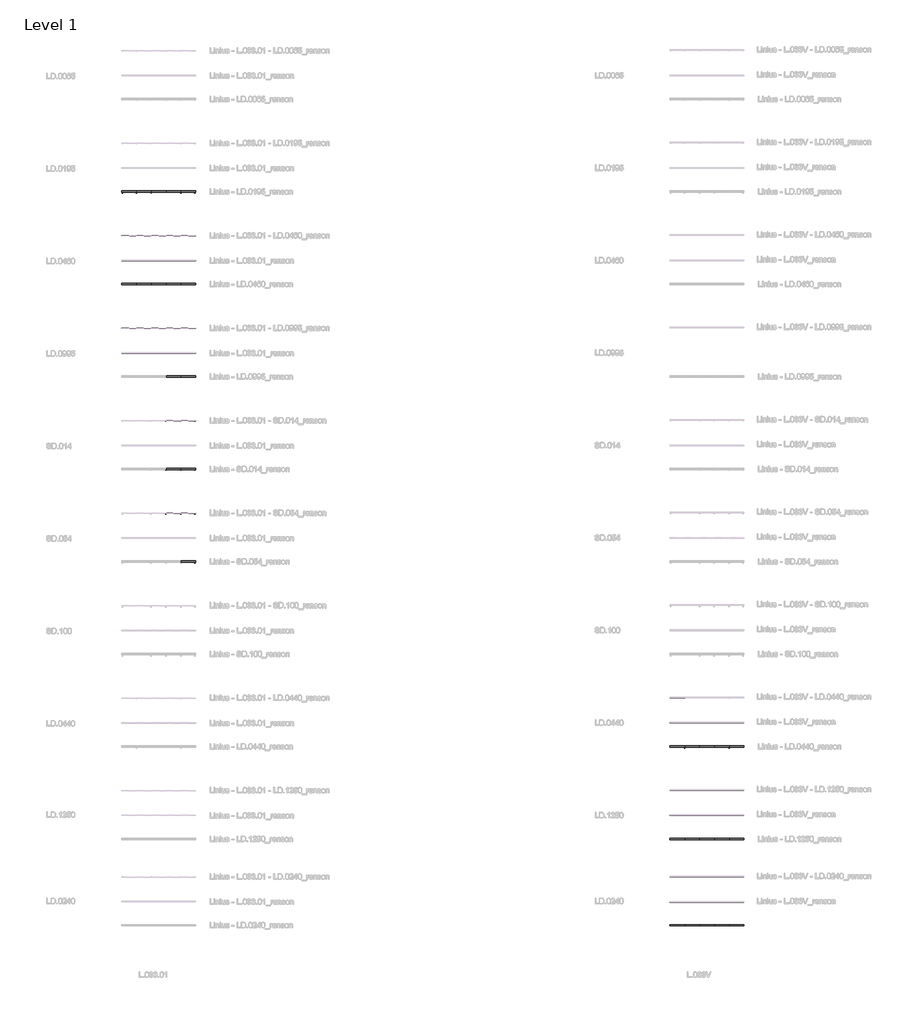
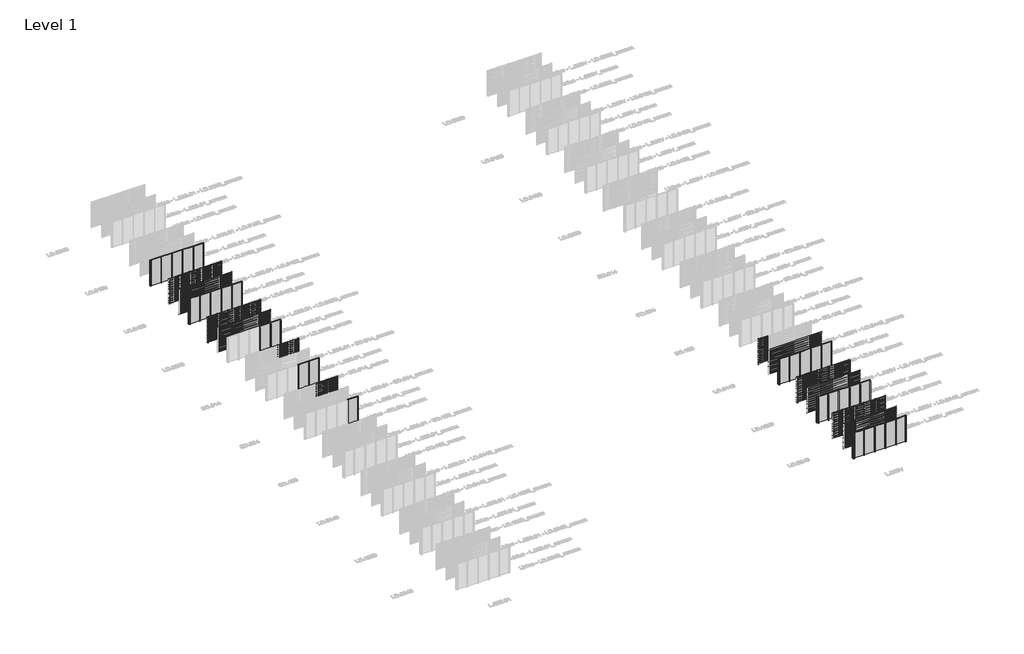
# One storey, part 2 of 507: 68 members, 60 plates.
"""IFC4 building model written with IfcOpenShell, lengths in millimetres."""

from ifc_helpers import new_model, si_unit, origin, origin_with_axes, place, context, project, spatial, polyline, outline, extrude, transform, mapped, element, save
from components import rectangular_mullion_e1f482b2, rectangular_mullion_21e3ddae, rectangular_mullion_fb497acc, rectangular_mullion_3facce28, rectangular_mullion_6cf2c509, rectangular_mullion_2c867e25, rectangular_mullion_7803f5c4, rectangular_mullion_82152e2f, rectangular_mullion_146f339b, rectangular_mullion_aa1047c5, rectangular_mullion_c2c7736a, rectangular_mullion_35b0a916, rectangular_mullion_bd250e2e, rectangular_mullion_7b49c8f1, rectangular_mullion_0fd695e7, rectangular_mullion_dfb17e98, rectangular_mullion_5b30f3fd, rectangular_mullion_5e0e8e0a, rectangular_mullion_d2d38772, rectangular_mullion_efb80f74, rectangular_mullion_aaa1fb1b, rectangular_mullion_ea9d012c, empty_system_panel_empty_aabbdda4

model = new_model("IFC4")

# Units and contexts
model_context = context("Model", 3, world=origin())
ifc_project = project(units=[si_unit("LENGTHUNIT", "METRE", prefix="MILLI")], contexts=[model_context])

# Site, building, storey
site = spatial("IfcSite", under=ifc_project)
building = spatial("IfcBuilding", under=site)
storey = spatial("IfcBuildingStorey", under=building, Name="Level 1", Elevation=0.0)

# Members
placement = place(None, origin())
rectangular_mullion_shape = rectangular_mullion_e1f482b2(model_context)
element("IfcMember", 1, ObjectType="Rectangular Mullion : LD.0195_renson", at=placement, inside=storey, context=model_context, shape_type="MappedRepresentation", body=[
    mapped(rectangular_mullion_shape, transform((49766.6208095, 62481.0540136, 0.0), x_axis=(-1.0, 0.0, 0.0), y_axis=(0.0, 1.0, 0.0), z_axis=(0.0, 0.0, -1.0))),
])
element("IfcMember", 2, ObjectType="Rectangular Mullion : LD.0195_renson", at=placement, inside=storey, context=model_context, shape_type="MappedRepresentation", body=[
    mapped(rectangular_mullion_shape, transform((48566.6208096, 62481.0540136, 0.0), x_axis=(-1.0, 0.0, 0.0), y_axis=(0.0, 1.0, 0.0), z_axis=(0.0, 0.0, -1.0))),
])
element("IfcMember", 3, ObjectType="Rectangular Mullion : LD.0195_renson", at=placement, inside=storey, context=model_context, shape_type="MappedRepresentation", body=[
    mapped(rectangular_mullion_shape, transform((47366.6208097, 62481.0540136, 0.0), x_axis=(-1.0, 0.0, 0.0), y_axis=(0.0, 1.0, 0.0), z_axis=(0.0, 0.0, -1.0))),
])
element("IfcMember", 4, ObjectType="Rectangular Mullion : LD.0195_renson", at=placement, inside=storey, context=model_context, shape_type="MappedRepresentation", body=[
    mapped(rectangular_mullion_shape, transform((46166.6208099, 62481.0540136, 0.0), x_axis=(-1.0, 0.0, 0.0), y_axis=(0.0, 1.0, 0.0), z_axis=(0.0, 0.0, -1.0))),
])
rectangular_mullion_2_shape = rectangular_mullion_21e3ddae(model_context)
element("IfcMember", 5, ObjectType="Rectangular Mullion : LD.0460_renson", at=placement, inside=storey, context=model_context, shape_type="MappedRepresentation", body=[
    mapped(rectangular_mullion_2_shape, transform((49766.6208095, 58981.0540136, 0.0), x_axis=(-1.0, 0.0, 0.0), y_axis=(0.0, 1.0, 0.0), z_axis=(0.0, 0.0, -1.0))),
])
element("IfcMember", 6, ObjectType="Rectangular Mullion : LD.0460_renson", at=placement, inside=storey, context=model_context, shape_type="MappedRepresentation", body=[
    mapped(rectangular_mullion_2_shape, transform((48566.6208096, 58981.0540136, 0.0), x_axis=(-1.0, 0.0, 0.0), y_axis=(0.0, 1.0, 0.0), z_axis=(0.0, 0.0, -1.0))),
])
element("IfcMember", 7, ObjectType="Rectangular Mullion : LD.0460_renson", at=placement, inside=storey, context=model_context, shape_type="MappedRepresentation", body=[
    mapped(rectangular_mullion_2_shape, transform((47366.6208097, 58981.0540136, 0.0), x_axis=(-1.0, 0.0, 0.0), y_axis=(0.0, 1.0, 0.0), z_axis=(0.0, 0.0, -1.0))),
])
element("IfcMember", 8, ObjectType="Rectangular Mullion : LD.0460_renson", at=placement, inside=storey, context=model_context, shape_type="MappedRepresentation", body=[
    mapped(rectangular_mullion_2_shape, transform((46166.6208099, 58981.0540136, 0.0), x_axis=(-1.0, 0.0, 0.0), y_axis=(0.0, 1.0, 0.0), z_axis=(0.0, 0.0, -1.0))),
])
element("IfcMember", 9, ObjectType="Rectangular Mullion : LD.0460_renson", at=placement, inside=storey, context=model_context, shape_type="MappedRepresentation", body=[
    mapped(rectangular_mullion_2_shape, transform((49766.6208095, 54981.0540136, 0.0), x_axis=(-1.0, 0.0, 0.0), y_axis=(0.0, 1.0, 0.0), z_axis=(0.0, 0.0, -1.0))),
])
element("IfcMember", 10, ObjectType="Rectangular Mullion : LD.0460_renson", at=placement, inside=storey, context=model_context, shape_type="MappedRepresentation", body=[
    mapped(rectangular_mullion_2_shape, transform((48566.6208096, 54981.0540136, 0.0), x_axis=(-1.0, 0.0, 0.0), y_axis=(0.0, 1.0, 0.0), z_axis=(0.0, 0.0, -1.0))),
])
element("IfcMember", 11, ObjectType="Rectangular Mullion : LD.0460_renson", at=placement, inside=storey, context=model_context, shape_type="MappedRepresentation", body=[
    mapped(rectangular_mullion_2_shape, transform((47366.6208097, 54981.0540136, 0.0), x_axis=(-1.0, 0.0, 0.0), y_axis=(0.0, 1.0, 0.0), z_axis=(0.0, 0.0, -1.0))),
])
element("IfcMember", 12, ObjectType="Rectangular Mullion : LD.0460_renson", at=placement, inside=storey, context=model_context, shape_type="MappedRepresentation", body=[
    mapped(rectangular_mullion_2_shape, transform((46166.6208099, 54981.0540136, 0.0), x_axis=(-1.0, 0.0, 0.0), y_axis=(0.0, 1.0, 0.0), z_axis=(0.0, 0.0, -1.0))),
])
rectangular_mullion_3_shape = rectangular_mullion_fb497acc(model_context)
element("IfcMember", 13, ObjectType="Rectangular Mullion : LD.0995_renson", at=placement, inside=storey, context=model_context, shape_type="MappedRepresentation", body=[
    mapped(rectangular_mullion_3_shape, transform((49766.6208095, 51481.0540136, 0.0), x_axis=(-1.0, 0.0, 0.0), y_axis=(0.0, 1.0, 0.0), z_axis=(0.0, 0.0, -1.0))),
])
element("IfcMember", 14, ObjectType="Rectangular Mullion : LD.0995_renson", at=placement, inside=storey, context=model_context, shape_type="MappedRepresentation", body=[
    mapped(rectangular_mullion_3_shape, transform((48566.6208096, 51481.0540136, 0.0), x_axis=(-1.0, 0.0, 0.0), y_axis=(0.0, 1.0, 0.0), z_axis=(0.0, 0.0, -1.0))),
])
element("IfcMember", 15, ObjectType="Rectangular Mullion : LD.0995_renson", at=placement, inside=storey, context=model_context, shape_type="MappedRepresentation", body=[
    mapped(rectangular_mullion_3_shape, transform((47366.6208097, 51481.0540136, 0.0), x_axis=(-1.0, 0.0, 0.0), y_axis=(0.0, 1.0, 0.0), z_axis=(0.0, 0.0, -1.0))),
])
element("IfcMember", 16, ObjectType="Rectangular Mullion : LD.0995_renson", at=placement, inside=storey, context=model_context, shape_type="MappedRepresentation", body=[
    mapped(rectangular_mullion_3_shape, transform((46166.6208099, 51481.0540136, 0.0), x_axis=(-1.0, 0.0, 0.0), y_axis=(0.0, 1.0, 0.0), z_axis=(0.0, 0.0, -1.0))),
])
element("IfcMember", 17, ObjectType="Rectangular Mullion : LD.0995_renson", at=placement, inside=storey, context=model_context, shape_type="MappedRepresentation", body=[
    mapped(rectangular_mullion_3_shape, transform((49766.6208095, 47481.0540136, 0.0), x_axis=(-1.0, 0.0, 0.0), y_axis=(0.0, 1.0, 0.0), z_axis=(0.0, 0.0, -1.0))),
])
element("IfcMember", 18, ObjectType="Rectangular Mullion : LD.0995_renson", at=placement, inside=storey, context=model_context, shape_type="MappedRepresentation", body=[
    mapped(rectangular_mullion_3_shape, transform((48566.6208096, 47481.0540136, 0.0), x_axis=(-1.0, 0.0, 0.0), y_axis=(0.0, 1.0, 0.0), z_axis=(0.0, 0.0, -1.0))),
])
rectangular_mullion_4_shape = rectangular_mullion_3facce28(model_context)
element("IfcMember", 19, ObjectType="Rectangular Mullion : SD.014_renson", at=placement, inside=storey, context=model_context, shape_type="MappedRepresentation", body=[
    mapped(rectangular_mullion_4_shape, transform((49766.6208095, 43981.0540136, 0.0), x_axis=(-1.0, 0.0, 0.0), y_axis=(0.0, 1.0, 0.0), z_axis=(0.0, 0.0, -1.0))),
])
element("IfcMember", 20, ObjectType="Rectangular Mullion : SD.014_renson", at=placement, inside=storey, context=model_context, shape_type="MappedRepresentation", body=[
    mapped(rectangular_mullion_4_shape, transform((48566.6208096, 43981.0540136, 0.0), x_axis=(-1.0, 0.0, 0.0), y_axis=(0.0, 1.0, 0.0), z_axis=(0.0, 0.0, -1.0))),
])
element("IfcMember", 21, ObjectType="Rectangular Mullion : SD.014_renson", at=placement, inside=storey, context=model_context, shape_type="MappedRepresentation", body=[
    mapped(rectangular_mullion_4_shape, transform((49766.6208095, 39981.0540136, 0.0), x_axis=(-1.0, 0.0, 0.0), y_axis=(0.0, 1.0, 0.0), z_axis=(0.0, 0.0, -1.0))),
])
element("IfcMember", 22, ObjectType="Rectangular Mullion : SD.014_renson", at=placement, inside=storey, context=model_context, shape_type="MappedRepresentation", body=[
    mapped(rectangular_mullion_4_shape, transform((48566.6208096, 39981.0540136, 0.0), x_axis=(-1.0, 0.0, 0.0), y_axis=(0.0, 1.0, 0.0), z_axis=(0.0, 0.0, -1.0))),
])
rectangular_mullion_5_shape = rectangular_mullion_6cf2c509(model_context)
element("IfcMember", 23, ObjectType="Rectangular Mullion : SD.054_renson", at=placement, inside=storey, context=model_context, shape_type="MappedRepresentation", body=[
    mapped(rectangular_mullion_5_shape, transform((49766.6208095, 36481.0540136, 0.0), x_axis=(-1.0, 0.0, 0.0), y_axis=(0.0, 1.0, 0.0), z_axis=(0.0, 0.0, -1.0))),
])
element("IfcMember", 24, ObjectType="Rectangular Mullion : SD.054_renson", at=placement, inside=storey, context=model_context, shape_type="MappedRepresentation", body=[
    mapped(rectangular_mullion_5_shape, transform((48566.6208096, 36481.0540136, 0.0), x_axis=(-1.0, 0.0, 0.0), y_axis=(0.0, 1.0, 0.0), z_axis=(0.0, 0.0, -1.0))),
])
rectangular_mullion_6_shape = rectangular_mullion_2c867e25(model_context)
element("IfcMember", 25, ObjectType="Rectangular Mullion : LD.0440_renson", at=placement, inside=storey, context=model_context, shape_type="MappedRepresentation", body=[
    mapped(rectangular_mullion_6_shape, transform((93066.6208096, 17481.0540136, 0.0), x_axis=(-1.0, 0.0, 0.0), y_axis=(0.0, 1.0, 0.0), z_axis=(0.0, 0.0, -1.0))),
])
element("IfcMember", 26, ObjectType="Rectangular Mullion : LD.0440_renson", at=placement, inside=storey, context=model_context, shape_type="MappedRepresentation", body=[
    mapped(rectangular_mullion_6_shape, transform((91866.6208097, 17481.0540136, 0.0), x_axis=(-1.0, 0.0, 0.0), y_axis=(0.0, 1.0, 0.0), z_axis=(0.0, 0.0, -1.0))),
])
element("IfcMember", 27, ObjectType="Rectangular Mullion : LD.0440_renson", at=placement, inside=storey, context=model_context, shape_type="MappedRepresentation", body=[
    mapped(rectangular_mullion_6_shape, transform((90666.6208099, 17481.0540136, 0.0), x_axis=(-1.0, 0.0, 0.0), y_axis=(0.0, 1.0, 0.0), z_axis=(0.0, 0.0, -1.0))),
])
element("IfcMember", 28, ObjectType="Rectangular Mullion : LD.0440_renson", at=placement, inside=storey, context=model_context, shape_type="MappedRepresentation", body=[
    mapped(rectangular_mullion_6_shape, transform((94266.6208095, 17481.0540136, 0.0), x_axis=(-1.0, 0.0, 0.0), y_axis=(0.0, 1.0, 0.0), z_axis=(0.0, 0.0, -1.0))),
])
rectangular_mullion_7_shape = rectangular_mullion_7803f5c4(model_context)
element("IfcMember", 29, ObjectType="Rectangular Mullion : LD.1250_renson", at=placement, inside=storey, context=model_context, shape_type="MappedRepresentation", body=[
    mapped(rectangular_mullion_7_shape, transform((93066.6208096, 9981.0540136, 0.0), x_axis=(-1.0, 0.0, 0.0), y_axis=(0.0, 1.0, 0.0), z_axis=(0.0, 0.0, -1.0))),
])
element("IfcMember", 30, ObjectType="Rectangular Mullion : LD.1250_renson", at=placement, inside=storey, context=model_context, shape_type="MappedRepresentation", body=[
    mapped(rectangular_mullion_7_shape, transform((91866.6208097, 9981.0540136, 0.0), x_axis=(-1.0, 0.0, 0.0), y_axis=(0.0, 1.0, 0.0), z_axis=(0.0, 0.0, -1.0))),
])
element("IfcMember", 31, ObjectType="Rectangular Mullion : LD.1250_renson", at=placement, inside=storey, context=model_context, shape_type="MappedRepresentation", body=[
    mapped(rectangular_mullion_7_shape, transform((90666.6208099, 9981.0540136, 0.0), x_axis=(-1.0, 0.0, 0.0), y_axis=(0.0, 1.0, 0.0), z_axis=(0.0, 0.0, -1.0))),
])
element("IfcMember", 32, ObjectType="Rectangular Mullion : LD.1250_renson", at=placement, inside=storey, context=model_context, shape_type="MappedRepresentation", body=[
    mapped(rectangular_mullion_7_shape, transform((94266.6208095, 9981.0540136, 0.0), x_axis=(-1.0, 0.0, 0.0), y_axis=(0.0, 1.0, 0.0), z_axis=(0.0, 0.0, -1.0))),
])
element("IfcMember", 33, ObjectType="Rectangular Mullion : LD.1250_renson", at=placement, inside=storey, context=model_context, shape_type="MappedRepresentation", body=[
    mapped(rectangular_mullion_7_shape, transform((94266.6208095, 14025.0540136, 0.0), x_axis=(-1.0, 0.0, 0.0), y_axis=(0.0, 1.0, 0.0), z_axis=(0.0, 0.0, -1.0))),
])
element("IfcMember", 34, ObjectType="Rectangular Mullion : LD.1250_renson", at=placement, inside=storey, context=model_context, shape_type="MappedRepresentation", body=[
    mapped(rectangular_mullion_7_shape, transform((93066.6208096, 14025.0540136, 0.0), x_axis=(-1.0, 0.0, 0.0), y_axis=(0.0, 1.0, 0.0), z_axis=(0.0, 0.0, -1.0))),
])
element("IfcMember", 35, ObjectType="Rectangular Mullion : LD.1250_renson", at=placement, inside=storey, context=model_context, shape_type="MappedRepresentation", body=[
    mapped(rectangular_mullion_7_shape, transform((91866.6208097, 14025.0540136, 0.0), x_axis=(-1.0, 0.0, 0.0), y_axis=(0.0, 1.0, 0.0), z_axis=(0.0, 0.0, -1.0))),
])
element("IfcMember", 36, ObjectType="Rectangular Mullion : LD.1250_renson", at=placement, inside=storey, context=model_context, shape_type="MappedRepresentation", body=[
    mapped(rectangular_mullion_7_shape, transform((90666.6208099, 14025.0540136, 0.0), x_axis=(-1.0, 0.0, 0.0), y_axis=(0.0, 1.0, 0.0), z_axis=(0.0, 0.0, -1.0))),
])
rectangular_mullion_8_shape = rectangular_mullion_82152e2f(model_context)
element("IfcMember", 37, ObjectType="Rectangular Mullion : LD.0240_renson", at=placement, inside=storey, context=model_context, shape_type="MappedRepresentation", body=[
    mapped(rectangular_mullion_8_shape, transform((94266.6208095, 2985.0270068, 0.0), x_axis=(-1.0, 0.0, 0.0), y_axis=(0.0, 1.0, 0.0), z_axis=(0.0, 0.0, -1.0))),
])
element("IfcMember", 38, ObjectType="Rectangular Mullion : LD.0240_renson", at=placement, inside=storey, context=model_context, shape_type="MappedRepresentation", body=[
    mapped(rectangular_mullion_8_shape, transform((93066.6208096, 2985.0270068, 0.0), x_axis=(-1.0, 0.0, 0.0), y_axis=(0.0, 1.0, 0.0), z_axis=(0.0, 0.0, -1.0))),
])
element("IfcMember", 39, ObjectType="Rectangular Mullion : LD.0240_renson", at=placement, inside=storey, context=model_context, shape_type="MappedRepresentation", body=[
    mapped(rectangular_mullion_8_shape, transform((91866.6208097, 2985.0270068, 0.0), x_axis=(-1.0, 0.0, 0.0), y_axis=(0.0, 1.0, 0.0), z_axis=(0.0, 0.0, -1.0))),
])
element("IfcMember", 40, ObjectType="Rectangular Mullion : LD.0240_renson", at=placement, inside=storey, context=model_context, shape_type="MappedRepresentation", body=[
    mapped(rectangular_mullion_8_shape, transform((90666.6208099, 2985.0270068, 0.0), x_axis=(-1.0, 0.0, 0.0), y_axis=(0.0, 1.0, 0.0), z_axis=(0.0, 0.0, -1.0))),
])
element("IfcMember", 41, ObjectType="Rectangular Mullion : LD.0240_renson", at=placement, inside=storey, context=model_context, shape_type="MappedRepresentation", body=[
    mapped(rectangular_mullion_8_shape, transform((94266.6208095, 7029.0270068, 0.0), x_axis=(-1.0, 0.0, 0.0), y_axis=(0.0, 1.0, 0.0), z_axis=(0.0, 0.0, -1.0))),
])
element("IfcMember", 42, ObjectType="Rectangular Mullion : LD.0240_renson", at=placement, inside=storey, context=model_context, shape_type="MappedRepresentation", body=[
    mapped(rectangular_mullion_8_shape, transform((93066.6208096, 7029.0270068, 0.0), x_axis=(-1.0, 0.0, 0.0), y_axis=(0.0, 1.0, 0.0), z_axis=(0.0, 0.0, -1.0))),
])
element("IfcMember", 43, ObjectType="Rectangular Mullion : LD.0240_renson", at=placement, inside=storey, context=model_context, shape_type="MappedRepresentation", body=[
    mapped(rectangular_mullion_8_shape, transform((91866.6208097, 7029.0270068, 0.0), x_axis=(-1.0, 0.0, 0.0), y_axis=(0.0, 1.0, 0.0), z_axis=(0.0, 0.0, -1.0))),
])
element("IfcMember", 44, ObjectType="Rectangular Mullion : LD.0240_renson", at=placement, inside=storey, context=model_context, shape_type="MappedRepresentation", body=[
    mapped(rectangular_mullion_8_shape, transform((90666.6208099, 7029.0270068, 0.0), x_axis=(-1.0, 0.0, 0.0), y_axis=(0.0, 1.0, 0.0), z_axis=(0.0, 0.0, -1.0))),
])
rectangular_mullion_9_shape = rectangular_mullion_146f339b(model_context)
element("IfcMember", 45, ObjectType="Rectangular Mullion : LD.0195 - left_renson", at=placement, inside=storey, context=model_context, shape_type="MappedRepresentation", body=[
    mapped(rectangular_mullion_9_shape, transform((44966.6208097, 62481.0540136, 0.0), x_axis=(-1.0, 0.0, 0.0), y_axis=(0.0, 1.0, 0.0), z_axis=(0.0, 0.0, -1.0))),
])
rectangular_mullion_10_shape = rectangular_mullion_aa1047c5(model_context)
element("IfcMember", 46, ObjectType="Rectangular Mullion : LD.0195 - right_renson", at=placement, inside=storey, context=model_context, shape_type="MappedRepresentation", body=[
    mapped(rectangular_mullion_10_shape, transform((50966.6208097, 62481.0540136, 3000.0), x_axis=(1.0, 0.0, 0.0), y_axis=(0.0, 1.0, 0.0), z_axis=(0.0, 0.0, 1.0))),
])
rectangular_mullion_11_shape = rectangular_mullion_c2c7736a(model_context)
element("IfcMember", 47, ObjectType="Rectangular Mullion : LD.0460 - left_renson", at=placement, inside=storey, context=model_context, shape_type="MappedRepresentation", body=[
    mapped(rectangular_mullion_11_shape, transform((44966.6208097, 58981.0540136, 0.0), x_axis=(-1.0, 0.0, 0.0), y_axis=(0.0, 1.0, 0.0), z_axis=(0.0, 0.0, -1.0))),
])
element("IfcMember", 48, ObjectType="Rectangular Mullion : LD.0460 - left_renson", at=placement, inside=storey, context=model_context, shape_type="MappedRepresentation", body=[
    mapped(rectangular_mullion_11_shape, transform((44966.6208097, 54981.0540136, 0.0), x_axis=(-1.0, 0.0, 0.0), y_axis=(0.0, 1.0, 0.0), z_axis=(0.0, 0.0, -1.0))),
])
rectangular_mullion_12_shape = rectangular_mullion_35b0a916(model_context)
element("IfcMember", 49, ObjectType="Rectangular Mullion : LD.0460 - right_renson", at=placement, inside=storey, context=model_context, shape_type="MappedRepresentation", body=[
    mapped(rectangular_mullion_12_shape, transform((50966.6208097, 58981.0540136, 3000.0), x_axis=(1.0, 0.0, 0.0), y_axis=(0.0, 1.0, 0.0), z_axis=(0.0, 0.0, 1.0))),
])
element("IfcMember", 50, ObjectType="Rectangular Mullion : LD.0460 - right_renson", at=placement, inside=storey, context=model_context, shape_type="MappedRepresentation", body=[
    mapped(rectangular_mullion_12_shape, transform((50966.6208097, 54981.0540136, 3000.0), x_axis=(1.0, 0.0, 0.0), y_axis=(0.0, 1.0, 0.0), z_axis=(0.0, 0.0, 1.0))),
])
rectangular_mullion_13_shape = rectangular_mullion_bd250e2e(model_context)
element("IfcMember", 51, ObjectType="Rectangular Mullion : LD.0995 - left_renson", at=placement, inside=storey, context=model_context, shape_type="MappedRepresentation", body=[
    mapped(rectangular_mullion_13_shape, transform((44966.6208097, 51481.0540136, 0.0), x_axis=(-1.0, 0.0, 0.0), y_axis=(0.0, 1.0, 0.0), z_axis=(0.0, 0.0, -1.0))),
])
rectangular_mullion_14_shape = rectangular_mullion_7b49c8f1(model_context)
element("IfcMember", 52, ObjectType="Rectangular Mullion : LD.0995 - right_renson", at=placement, inside=storey, context=model_context, shape_type="MappedRepresentation", body=[
    mapped(rectangular_mullion_14_shape, transform((50966.6208097, 51481.0540136, 3000.0), x_axis=(1.0, 0.0, 0.0), y_axis=(0.0, 1.0, 0.0), z_axis=(0.0, 0.0, 1.0))),
])
element("IfcMember", 53, ObjectType="Rectangular Mullion : LD.0995 - right_renson", at=placement, inside=storey, context=model_context, shape_type="MappedRepresentation", body=[
    mapped(rectangular_mullion_14_shape, transform((50966.6208097, 47481.0540136, 3000.0), x_axis=(1.0, 0.0, 0.0), y_axis=(0.0, 1.0, 0.0), z_axis=(0.0, 0.0, 1.0))),
])
rectangular_mullion_15_shape = rectangular_mullion_0fd695e7(model_context)
element("IfcMember", 54, ObjectType="Rectangular Mullion : SD.014 - right_renson", at=placement, inside=storey, context=model_context, shape_type="MappedRepresentation", body=[
    mapped(rectangular_mullion_15_shape, transform((50966.6208097, 43981.0540136, 3000.0), x_axis=(1.0, 0.0, 0.0), y_axis=(0.0, 1.0, 0.0), z_axis=(0.0, 0.0, 1.0))),
])
element("IfcMember", 55, ObjectType="Rectangular Mullion : SD.014 - right_renson", at=placement, inside=storey, context=model_context, shape_type="MappedRepresentation", body=[
    mapped(rectangular_mullion_15_shape, transform((50966.6208097, 39981.0540136, 3000.0), x_axis=(1.0, 0.0, 0.0), y_axis=(0.0, 1.0, 0.0), z_axis=(0.0, 0.0, 1.0))),
])
rectangular_mullion_16_shape = rectangular_mullion_dfb17e98(model_context)
element("IfcMember", 56, ObjectType="Rectangular Mullion : SD.054 - right_renson", at=placement, inside=storey, context=model_context, shape_type="MappedRepresentation", body=[
    mapped(rectangular_mullion_16_shape, transform((50966.6208097, 36481.0540136, 3000.0), x_axis=(1.0, 0.0, 0.0), y_axis=(0.0, 1.0, 0.0), z_axis=(0.0, 0.0, 1.0))),
])
element("IfcMember", 57, ObjectType="Rectangular Mullion : SD.054 - right_renson", at=placement, inside=storey, context=model_context, shape_type="MappedRepresentation", body=[
    mapped(rectangular_mullion_16_shape, transform((50966.6208097, 32481.0540136, 3000.0), x_axis=(1.0, 0.0, 0.0), y_axis=(0.0, 1.0, 0.0), z_axis=(0.0, 0.0, 1.0))),
])
rectangular_mullion_17_shape = rectangular_mullion_5b30f3fd(model_context)
element("IfcMember", 58, ObjectType="Rectangular Mullion : LD.0440 - left_renson", at=placement, inside=storey, context=model_context, shape_type="MappedRepresentation", body=[
    mapped(rectangular_mullion_17_shape, transform((89466.6208097, 17481.0540136, 0.0), x_axis=(-1.0, 0.0, 0.0), y_axis=(0.0, 1.0, 0.0), z_axis=(0.0, 0.0, -1.0))),
])
element("IfcMember", 59, ObjectType="Rectangular Mullion : LD.0440 - left_renson", at=placement, inside=storey, context=model_context, shape_type="MappedRepresentation", body=[
    mapped(rectangular_mullion_17_shape, transform((89466.6208097, 21525.0540136, 0.0), x_axis=(-1.0, 0.0, 0.0), y_axis=(0.0, 1.0, 0.0), z_axis=(0.0, 0.0, -1.0))),
])
rectangular_mullion_18_shape = rectangular_mullion_5e0e8e0a(model_context)
element("IfcMember", 60, ObjectType="Rectangular Mullion : LD.0440 - right_renson", at=placement, inside=storey, context=model_context, shape_type="MappedRepresentation", body=[
    mapped(rectangular_mullion_18_shape, transform((95466.6208097, 17481.0540136, 3000.0), x_axis=(1.0, 0.0, 0.0), y_axis=(0.0, 1.0, 0.0), z_axis=(0.0, 0.0, 1.0))),
])
rectangular_mullion_19_shape = rectangular_mullion_d2d38772(model_context)
element("IfcMember", 61, ObjectType="Rectangular Mullion : LD.1250 - left_renson", at=placement, inside=storey, context=model_context, shape_type="MappedRepresentation", body=[
    mapped(rectangular_mullion_19_shape, transform((89466.6208097, 9981.0540136, 0.0), x_axis=(-1.0, 0.0, 0.0), y_axis=(0.0, 1.0, 0.0), z_axis=(0.0, 0.0, -1.0))),
])
element("IfcMember", 62, ObjectType="Rectangular Mullion : LD.1250 - left_renson", at=placement, inside=storey, context=model_context, shape_type="MappedRepresentation", body=[
    mapped(rectangular_mullion_19_shape, transform((89466.6208097, 14025.0540136, 0.0), x_axis=(-1.0, 0.0, 0.0), y_axis=(0.0, 1.0, 0.0), z_axis=(0.0, 0.0, -1.0))),
])
rectangular_mullion_20_shape = rectangular_mullion_efb80f74(model_context)
element("IfcMember", 63, ObjectType="Rectangular Mullion : LD.1250 - right_renson", at=placement, inside=storey, context=model_context, shape_type="MappedRepresentation", body=[
    mapped(rectangular_mullion_20_shape, transform((95466.6208097, 9981.0540136, 3000.0), x_axis=(1.0, 0.0, 0.0), y_axis=(0.0, 1.0, 0.0), z_axis=(0.0, 0.0, 1.0))),
])
element("IfcMember", 64, ObjectType="Rectangular Mullion : LD.1250 - right_renson", at=placement, inside=storey, context=model_context, shape_type="MappedRepresentation", body=[
    mapped(rectangular_mullion_20_shape, transform((95466.6208097, 14025.0540136, 3000.0), x_axis=(1.0, 0.0, 0.0), y_axis=(0.0, 1.0, 0.0), z_axis=(0.0, 0.0, 1.0))),
])
rectangular_mullion_21_shape = rectangular_mullion_aaa1fb1b(model_context)
element("IfcMember", 65, ObjectType="Rectangular Mullion : LD.0240 - left_renson", at=placement, inside=storey, context=model_context, shape_type="MappedRepresentation", body=[
    mapped(rectangular_mullion_21_shape, transform((89466.6208097, 2985.0270068, 0.0), x_axis=(-1.0, 0.0, 0.0), y_axis=(0.0, 1.0, 0.0), z_axis=(0.0, 0.0, -1.0))),
])
element("IfcMember", 66, ObjectType="Rectangular Mullion : LD.0240 - left_renson", at=placement, inside=storey, context=model_context, shape_type="MappedRepresentation", body=[
    mapped(rectangular_mullion_21_shape, transform((89466.6208097, 7029.0270068, 0.0), x_axis=(-1.0, 0.0, 0.0), y_axis=(0.0, 1.0, 0.0), z_axis=(0.0, 0.0, -1.0))),
])
rectangular_mullion_22_shape = rectangular_mullion_ea9d012c(model_context)
element("IfcMember", 67, ObjectType="Rectangular Mullion : LD.0240 - right_renson", at=placement, inside=storey, context=model_context, shape_type="MappedRepresentation", body=[
    mapped(rectangular_mullion_22_shape, transform((95466.6208097, 2985.0270068, 3000.0), x_axis=(1.0, 0.0, 0.0), y_axis=(0.0, 1.0, 0.0), z_axis=(0.0, 0.0, 1.0))),
])
element("IfcMember", 68, ObjectType="Rectangular Mullion : LD.0240 - right_renson", at=placement, inside=storey, context=model_context, shape_type="MappedRepresentation", body=[
    mapped(rectangular_mullion_22_shape, transform((95466.6208097, 7029.0270068, 3000.0), x_axis=(1.0, 0.0, 0.0), y_axis=(0.0, 1.0, 0.0), z_axis=(0.0, 0.0, 1.0))),
])

# Plates
element("IfcPlate", 69, ObjectType="Linius - L.033.01_renson", at=placement, inside=storey, context=model_context, shape_type="SweptSolid", body=[
    extrude(outline(polyline([(44966.6208097, 58982.0540136), (46166.6208099, 58982.0540136), (46166.6208099, 58980.0540136), (44966.6208097, 58980.0540136), (44966.6208097, 58982.0540136)])), origin_with_axes(), (0.0, 0.0, 1.0), 3000.0),
])
element("IfcPlate", 70, ObjectType="Linius - L.033.01_renson", at=placement, inside=storey, context=model_context, shape_type="SweptSolid", body=[
    extrude(outline(polyline([(46166.6208099, 58982.0540136), (47366.6208097, 58982.0540136), (47366.6208097, 58980.0540136), (46166.6208099, 58980.0540136), (46166.6208099, 58982.0540136)])), origin_with_axes(), (0.0, 0.0, 1.0), 3000.0),
])
element("IfcPlate", 71, ObjectType="Linius - L.033.01_renson", at=placement, inside=storey, context=model_context, shape_type="SweptSolid", body=[
    extrude(outline(polyline([(47366.6208097, 58982.0540136), (48566.6208096, 58982.0540136), (48566.6208096, 58980.0540136), (47366.6208097, 58980.0540136), (47366.6208097, 58982.0540136)])), origin_with_axes(), (0.0, 0.0, 1.0), 3000.0),
])
element("IfcPlate", 72, ObjectType="Linius - L.033.01_renson", at=placement, inside=storey, context=model_context, shape_type="SweptSolid", body=[
    extrude(outline(polyline([(48566.6208096, 58982.0540136), (49766.6208095, 58982.0540136), (49766.6208095, 58980.0540136), (48566.6208096, 58980.0540136), (48566.6208096, 58982.0540136)])), origin_with_axes(), (0.0, 0.0, 1.0), 3000.0),
])
element("IfcPlate", 73, ObjectType="Linius - L.033.01_renson", at=placement, inside=storey, context=model_context, shape_type="SweptSolid", body=[
    extrude(outline(polyline([(44966.6208097, 56982.0540136), (50966.6208097, 56982.0540136), (50966.6208097, 56980.0540136), (44966.6208097, 56980.0540136), (44966.6208097, 56982.0540136)])), origin_with_axes(), (0.0, 0.0, 1.0), 3000.0),
])
element("IfcPlate", 74, ObjectType="Linius - L.033.01_renson", at=placement, inside=storey, context=model_context, shape_type="SweptSolid", body=[
    extrude(outline(polyline([(44966.6208097, 51482.0540136), (46166.6208099, 51482.0540136), (46166.6208099, 51480.0540136), (44966.6208097, 51480.0540136), (44966.6208097, 51482.0540136)])), origin_with_axes(), (0.0, 0.0, 1.0), 3000.0),
])
element("IfcPlate", 75, ObjectType="Linius - L.033.01_renson", at=placement, inside=storey, context=model_context, shape_type="SweptSolid", body=[
    extrude(outline(polyline([(46166.6208099, 51482.0540136), (47366.6208097, 51482.0540136), (47366.6208097, 51480.0540136), (46166.6208099, 51480.0540136), (46166.6208099, 51482.0540136)])), origin_with_axes(), (0.0, 0.0, 1.0), 3000.0),
])
element("IfcPlate", 76, ObjectType="Linius - L.033.01_renson", at=placement, inside=storey, context=model_context, shape_type="SweptSolid", body=[
    extrude(outline(polyline([(47366.6208097, 51482.0540136), (48566.6208096, 51482.0540136), (48566.6208096, 51480.0540136), (47366.6208097, 51480.0540136), (47366.6208097, 51482.0540136)])), origin_with_axes(), (0.0, 0.0, 1.0), 3000.0),
])
element("IfcPlate", 77, ObjectType="Linius - L.033.01_renson", at=placement, inside=storey, context=model_context, shape_type="SweptSolid", body=[
    extrude(outline(polyline([(48566.6208096, 51482.0540136), (49766.6208095, 51482.0540136), (49766.6208095, 51480.0540136), (48566.6208096, 51480.0540136), (48566.6208096, 51482.0540136)])), origin_with_axes(), (0.0, 0.0, 1.0), 3000.0),
])
element("IfcPlate", 78, ObjectType="Linius - L.033.01_renson", at=placement, inside=storey, context=model_context, shape_type="SweptSolid", body=[
    extrude(outline(polyline([(44966.6208097, 49482.0540136), (50966.6208097, 49482.0540136), (50966.6208097, 49480.0540136), (44966.6208097, 49480.0540136), (44966.6208097, 49482.0540136)])), origin_with_axes(), (0.0, 0.0, 1.0), 3000.0),
])
element("IfcPlate", 79, ObjectType="Linius - L.033.01_renson", at=placement, inside=storey, context=model_context, shape_type="SweptSolid", body=[
    extrude(outline(polyline([(48566.6208096, 43982.0540136), (49766.6208095, 43982.0540136), (49766.6208095, 43980.0540136), (48566.6208096, 43980.0540136), (48566.6208096, 43982.0540136)])), origin_with_axes(), (0.0, 0.0, 1.0), 3000.0),
])
element("IfcPlate", 80, ObjectType="Linius - L.033.01_renson", at=placement, inside=storey, context=model_context, shape_type="SweptSolid", body=[
    extrude(outline(polyline([(48566.6208096, 36482.0540136), (49766.6208095, 36482.0540136), (49766.6208095, 36480.0540136), (48566.6208096, 36480.0540136), (48566.6208096, 36482.0540136)])), origin_with_axes(), (0.0, 0.0, 1.0), 3000.0),
])
element("IfcPlate", 81, ObjectType="Linius - L.033.01_renson", at=placement, inside=storey, context=model_context, shape_type="SweptSolid", body=[
    extrude(outline(polyline([(49766.6208095, 58982.0540136), (50966.6208097, 58982.0540136), (50966.6208097, 58980.0540136), (49766.6208095, 58980.0540136), (49766.6208095, 58982.0540136)])), origin_with_axes(), (0.0, 0.0, 1.0), 3000.0),
])
element("IfcPlate", 82, ObjectType="Linius - L.033.01_renson", at=placement, inside=storey, context=model_context, shape_type="SweptSolid", body=[
    extrude(outline(polyline([(49766.6208095, 51482.0540136), (50966.6208097, 51482.0540136), (50966.6208097, 51480.0540136), (49766.6208095, 51480.0540136), (49766.6208095, 51482.0540136)])), origin_with_axes(), (0.0, 0.0, 1.0), 3000.0),
])
element("IfcPlate", 83, ObjectType="Linius - L.033.01_renson", at=placement, inside=storey, context=model_context, shape_type="SweptSolid", body=[
    extrude(outline(polyline([(49766.6208095, 43982.0540136), (50966.6208097, 43982.0540136), (50966.6208097, 43980.0540136), (49766.6208095, 43980.0540136), (49766.6208095, 43982.0540136)])), origin_with_axes(), (0.0, 0.0, 1.0), 3000.0),
])
element("IfcPlate", 84, ObjectType="Linius - L.033.01_renson", at=placement, inside=storey, context=model_context, shape_type="SweptSolid", body=[
    extrude(outline(polyline([(49766.6208095, 36482.0540136), (50966.6208097, 36482.0540136), (50966.6208097, 36480.0540136), (49766.6208095, 36480.0540136), (49766.6208095, 36482.0540136)])), origin_with_axes(), (0.0, 0.0, 1.0), 3000.0),
])
element("IfcPlate", 85, ObjectType="Linius - L.033V_renson", at=placement, inside=storey, context=model_context, shape_type="SweptSolid", body=[
    extrude(outline(polyline([(89466.6208097, 11983.0540136), (95466.6208097, 11983.0540136), (95466.6208097, 11981.0540136), (89466.6208097, 11981.0540136), (89466.6208097, 11983.0540136)])), origin_with_axes(), (0.0, 0.0, 1.0), 3000.0),
])
element("IfcPlate", 86, ObjectType="Linius - L.033V_renson", at=placement, inside=storey, context=model_context, shape_type="SweptSolid", body=[
    extrude(outline(polyline([(89466.6208097, 4946.0270068), (95466.6208097, 4946.0270068), (95466.6208097, 4944.0270068), (89466.6208097, 4944.0270068), (89466.6208097, 4946.0270068)])), origin_with_axes(), (0.0, 0.0, 1.0), 3000.0),
])
element("IfcPlate", 87, ObjectType="Linius - L.033V_renson", at=placement, inside=storey, context=model_context, shape_type="SweptSolid", body=[
    extrude(outline(polyline([(89466.6208097, 21526.0540136), (90666.6208099, 21526.0540136), (90666.6208099, 21524.0540136), (89466.6208097, 21524.0540136), (89466.6208097, 21526.0540136)])), origin_with_axes(), (0.0, 0.0, 1.0), 3000.0),
])
element("IfcPlate", 88, ObjectType="Linius - L.033V_renson", at=placement, inside=storey, context=model_context, shape_type="SweptSolid", body=[
    extrude(outline(polyline([(89466.6208097, 14026.0540136), (90666.6208099, 14026.0540136), (90666.6208099, 14024.0540136), (89466.6208097, 14024.0540136), (89466.6208097, 14026.0540136)])), origin_with_axes(), (0.0, 0.0, 1.0), 3000.0),
])
element("IfcPlate", 89, ObjectType="Linius - L.033V_renson", at=placement, inside=storey, context=model_context, shape_type="SweptSolid", body=[
    extrude(outline(polyline([(90666.6208099, 14026.0540136), (91866.6208097, 14026.0540136), (91866.6208097, 14024.0540136), (90666.6208099, 14024.0540136), (90666.6208099, 14026.0540136)])), origin_with_axes(), (0.0, 0.0, 1.0), 3000.0),
])
element("IfcPlate", 90, ObjectType="Linius - L.033V_renson", at=placement, inside=storey, context=model_context, shape_type="SweptSolid", body=[
    extrude(outline(polyline([(91866.6208097, 14026.0540136), (93066.6208096, 14026.0540136), (93066.6208096, 14024.0540136), (91866.6208097, 14024.0540136), (91866.6208097, 14026.0540136)])), origin_with_axes(), (0.0, 0.0, 1.0), 3000.0),
])
element("IfcPlate", 91, ObjectType="Linius - L.033V_renson", at=placement, inside=storey, context=model_context, shape_type="SweptSolid", body=[
    extrude(outline(polyline([(93066.6208096, 14026.0540136), (94266.6208095, 14026.0540136), (94266.6208095, 14024.0540136), (93066.6208096, 14024.0540136), (93066.6208096, 14026.0540136)])), origin_with_axes(), (0.0, 0.0, 1.0), 3000.0),
])
element("IfcPlate", 92, ObjectType="Linius - L.033V_renson", at=placement, inside=storey, context=model_context, shape_type="SweptSolid", body=[
    extrude(outline(polyline([(89466.6208097, 7030.0270068), (90666.6208099, 7030.0270068), (90666.6208099, 7028.0270068), (89466.6208097, 7028.0270068), (89466.6208097, 7030.0270068)])), origin_with_axes(), (0.0, 0.0, 1.0), 3000.0),
])
element("IfcPlate", 93, ObjectType="Linius - L.033V_renson", at=placement, inside=storey, context=model_context, shape_type="SweptSolid", body=[
    extrude(outline(polyline([(90666.6208099, 7030.0270068), (91866.6208097, 7030.0270068), (91866.6208097, 7028.0270068), (90666.6208099, 7028.0270068), (90666.6208099, 7030.0270068)])), origin_with_axes(), (0.0, 0.0, 1.0), 3000.0),
])
element("IfcPlate", 94, ObjectType="Linius - L.033V_renson", at=placement, inside=storey, context=model_context, shape_type="SweptSolid", body=[
    extrude(outline(polyline([(91866.6208097, 7030.0270068), (93066.6208096, 7030.0270068), (93066.6208096, 7028.0270068), (91866.6208097, 7028.0270068), (91866.6208097, 7030.0270068)])), origin_with_axes(), (0.0, 0.0, 1.0), 3000.0),
])
element("IfcPlate", 95, ObjectType="Linius - L.033V_renson", at=placement, inside=storey, context=model_context, shape_type="SweptSolid", body=[
    extrude(outline(polyline([(93066.6208096, 7030.0270068), (94266.6208095, 7030.0270068), (94266.6208095, 7028.0270068), (93066.6208096, 7028.0270068), (93066.6208096, 7030.0270068)])), origin_with_axes(), (0.0, 0.0, 1.0), 3000.0),
])
element("IfcPlate", 96, ObjectType="Linius - L.033V_renson", at=placement, inside=storey, context=model_context, shape_type="SweptSolid", body=[
    extrude(outline(polyline([(94266.6208095, 7030.0270068), (95466.6208097, 7030.0270068), (95466.6208097, 7028.0270068), (94266.6208095, 7028.0270068), (94266.6208095, 7030.0270068)])), origin_with_axes(), (0.0, 0.0, 1.0), 3000.0),
])
element("IfcPlate", 97, ObjectType="Linius - L.033V_renson", at=placement, inside=storey, context=model_context, shape_type="SweptSolid", body=[
    extrude(outline(polyline([(94266.6208095, 14026.0540136), (95466.6208097, 14026.0540136), (95466.6208097, 14024.0540136), (94266.6208095, 14024.0540136), (94266.6208095, 14026.0540136)])), origin_with_axes(), (0.0, 0.0, 1.0), 3000.0),
])
element("IfcPlate", 98, ObjectType="Linius - L.033V_renson", at=placement, inside=storey, context=model_context, shape_type="SweptSolid", body=[
    extrude(outline(polyline([(89466.6208097, 19483.0540136), (95466.6208097, 19483.0540136), (95466.6208097, 19481.0540136), (89466.6208097, 19481.0540136), (89466.6208097, 19483.0540136)])), origin_with_axes(), (0.0, 0.0, 1.0), 3000.0),
])
empty_system_panel_empty_shape = empty_system_panel_empty_aabbdda4(model_context)
element("IfcPlate", 99, ObjectType="Empty System Panel : Empty", at=placement, inside=storey, context=model_context, shape_type="MappedRepresentation", body=[
    mapped(empty_system_panel_empty_shape, transform((50366.6208096, 62481.0540136, 0.0), x_axis=(-1.0, 0.0, 0.0), y_axis=(0.0, -1.0, 0.0), z_axis=(0.0, 0.0, 1.0))),
])
element("IfcPlate", 100, ObjectType="Empty System Panel : Empty", at=placement, inside=storey, context=model_context, shape_type="MappedRepresentation", body=[
    mapped(empty_system_panel_empty_shape, transform((50366.6208096, 54981.0540136, 0.0), x_axis=(-1.0, 0.0, 0.0), y_axis=(0.0, -1.0, 0.0), z_axis=(0.0, 0.0, 1.0))),
])
element("IfcPlate", 101, ObjectType="Empty System Panel : Empty", at=placement, inside=storey, context=model_context, shape_type="MappedRepresentation", body=[
    mapped(empty_system_panel_empty_shape, transform((50366.6208096, 47481.0540136, 0.0), x_axis=(-1.0, 0.0, 0.0), y_axis=(0.0, -1.0, 0.0), z_axis=(0.0, 0.0, 1.0))),
])
element("IfcPlate", 102, ObjectType="Empty System Panel : Empty", at=placement, inside=storey, context=model_context, shape_type="MappedRepresentation", body=[
    mapped(empty_system_panel_empty_shape, transform((50366.6208096, 39981.0540136, 0.0), x_axis=(-1.0, 0.0, 0.0), y_axis=(0.0, -1.0, 0.0), z_axis=(0.0, 0.0, 1.0))),
])
element("IfcPlate", 103, ObjectType="Empty System Panel : Empty", at=placement, inside=storey, context=model_context, shape_type="MappedRepresentation", body=[
    mapped(empty_system_panel_empty_shape, transform((50366.6208096, 32481.0540136, 0.0), x_axis=(-1.0, 0.0, 0.0), y_axis=(0.0, -1.0, 0.0), z_axis=(0.0, 0.0, 1.0))),
])
element("IfcPlate", 104, ObjectType="Empty System Panel : Empty", at=placement, inside=storey, context=model_context, shape_type="MappedRepresentation", body=[
    mapped(empty_system_panel_empty_shape, transform((49166.6208096, 62481.0540136, 0.0), x_axis=(-1.0, 0.0, 0.0), y_axis=(0.0, -1.0, 0.0), z_axis=(0.0, 0.0, 1.0))),
])
element("IfcPlate", 105, ObjectType="Empty System Panel : Empty", at=placement, inside=storey, context=model_context, shape_type="MappedRepresentation", body=[
    mapped(empty_system_panel_empty_shape, transform((47966.6208097, 62481.0540136, 0.0), x_axis=(-1.0, 0.0, 0.0), y_axis=(0.0, -1.0, 0.0), z_axis=(0.0, 0.0, 1.0))),
])
element("IfcPlate", 106, ObjectType="Empty System Panel : Empty", at=placement, inside=storey, context=model_context, shape_type="MappedRepresentation", body=[
    mapped(empty_system_panel_empty_shape, transform((46766.6208098, 62481.0540136, 0.0), x_axis=(-1.0, 0.0, 0.0), y_axis=(0.0, -1.0, 0.0), z_axis=(0.0, 0.0, 1.0))),
])
element("IfcPlate", 107, ObjectType="Empty System Panel : Empty", at=placement, inside=storey, context=model_context, shape_type="MappedRepresentation", body=[
    mapped(empty_system_panel_empty_shape, transform((45566.6208098, 62481.0540136, 0.0), x_axis=(-1.0, 0.0, 0.0), y_axis=(0.0, -1.0, 0.0), z_axis=(0.0, 0.0, 1.0))),
])
element("IfcPlate", 108, ObjectType="Empty System Panel : Empty", at=placement, inside=storey, context=model_context, shape_type="MappedRepresentation", body=[
    mapped(empty_system_panel_empty_shape, transform((49166.6208096, 54981.0540136, 0.0), x_axis=(-1.0, 0.0, 0.0), y_axis=(0.0, -1.0, 0.0), z_axis=(0.0, 0.0, 1.0))),
])
element("IfcPlate", 109, ObjectType="Empty System Panel : Empty", at=placement, inside=storey, context=model_context, shape_type="MappedRepresentation", body=[
    mapped(empty_system_panel_empty_shape, transform((47966.6208097, 54981.0540136, 0.0), x_axis=(-1.0, 0.0, 0.0), y_axis=(0.0, -1.0, 0.0), z_axis=(0.0, 0.0, 1.0))),
])
element("IfcPlate", 110, ObjectType="Empty System Panel : Empty", at=placement, inside=storey, context=model_context, shape_type="MappedRepresentation", body=[
    mapped(empty_system_panel_empty_shape, transform((46766.6208098, 54981.0540136, 0.0), x_axis=(-1.0, 0.0, 0.0), y_axis=(0.0, -1.0, 0.0), z_axis=(0.0, 0.0, 1.0))),
])
element("IfcPlate", 111, ObjectType="Empty System Panel : Empty", at=placement, inside=storey, context=model_context, shape_type="MappedRepresentation", body=[
    mapped(empty_system_panel_empty_shape, transform((45566.6208098, 54981.0540136, 0.0), x_axis=(-1.0, 0.0, 0.0), y_axis=(0.0, -1.0, 0.0), z_axis=(0.0, 0.0, 1.0))),
])
element("IfcPlate", 112, ObjectType="Empty System Panel : Empty", at=placement, inside=storey, context=model_context, shape_type="MappedRepresentation", body=[
    mapped(empty_system_panel_empty_shape, transform((49166.6208096, 47481.0540136, 0.0), x_axis=(-1.0, 0.0, 0.0), y_axis=(0.0, -1.0, 0.0), z_axis=(0.0, 0.0, 1.0))),
])
element("IfcPlate", 113, ObjectType="Empty System Panel : Empty", at=placement, inside=storey, context=model_context, shape_type="MappedRepresentation", body=[
    mapped(empty_system_panel_empty_shape, transform((49166.6208096, 39981.0540136, 0.0), x_axis=(-1.0, 0.0, 0.0), y_axis=(0.0, -1.0, 0.0), z_axis=(0.0, 0.0, 1.0))),
])
element("IfcPlate", 114, ObjectType="Empty System Panel : Empty", at=placement, inside=storey, context=model_context, shape_type="MappedRepresentation", body=[
    mapped(empty_system_panel_empty_shape, transform((94866.6208096, 17481.0540136, 0.0), x_axis=(-1.0, 0.0, 0.0), y_axis=(0.0, -1.0, 0.0), z_axis=(0.0, 0.0, 1.0))),
])
element("IfcPlate", 115, ObjectType="Empty System Panel : Empty", at=placement, inside=storey, context=model_context, shape_type="MappedRepresentation", body=[
    mapped(empty_system_panel_empty_shape, transform((94866.6208096, 9981.0540136, 0.0), x_axis=(-1.0, 0.0, 0.0), y_axis=(0.0, -1.0, 0.0), z_axis=(0.0, 0.0, 1.0))),
])
element("IfcPlate", 116, ObjectType="Empty System Panel : Empty", at=placement, inside=storey, context=model_context, shape_type="MappedRepresentation", body=[
    mapped(empty_system_panel_empty_shape, transform((92466.6208097, 17481.0540136, 0.0), x_axis=(-1.0, 0.0, 0.0), y_axis=(0.0, -1.0, 0.0), z_axis=(0.0, 0.0, 1.0))),
])
element("IfcPlate", 117, ObjectType="Empty System Panel : Empty", at=placement, inside=storey, context=model_context, shape_type="MappedRepresentation", body=[
    mapped(empty_system_panel_empty_shape, transform((91266.6208098, 17481.0540136, 0.0), x_axis=(-1.0, 0.0, 0.0), y_axis=(0.0, -1.0, 0.0), z_axis=(0.0, 0.0, 1.0))),
])
element("IfcPlate", 118, ObjectType="Empty System Panel : Empty", at=placement, inside=storey, context=model_context, shape_type="MappedRepresentation", body=[
    mapped(empty_system_panel_empty_shape, transform((90066.6208098, 17481.0540136, 0.0), x_axis=(-1.0, 0.0, 0.0), y_axis=(0.0, -1.0, 0.0), z_axis=(0.0, 0.0, 1.0))),
])
element("IfcPlate", 119, ObjectType="Empty System Panel : Empty", at=placement, inside=storey, context=model_context, shape_type="MappedRepresentation", body=[
    mapped(empty_system_panel_empty_shape, transform((92466.6208097, 9981.0540136, 0.0), x_axis=(-1.0, 0.0, 0.0), y_axis=(0.0, -1.0, 0.0), z_axis=(0.0, 0.0, 1.0))),
])
element("IfcPlate", 120, ObjectType="Empty System Panel : Empty", at=placement, inside=storey, context=model_context, shape_type="MappedRepresentation", body=[
    mapped(empty_system_panel_empty_shape, transform((91266.6208098, 9981.0540136, 0.0), x_axis=(-1.0, 0.0, 0.0), y_axis=(0.0, -1.0, 0.0), z_axis=(0.0, 0.0, 1.0))),
])
element("IfcPlate", 121, ObjectType="Empty System Panel : Empty", at=placement, inside=storey, context=model_context, shape_type="MappedRepresentation", body=[
    mapped(empty_system_panel_empty_shape, transform((90066.6208098, 9981.0540136, 0.0), x_axis=(-1.0, 0.0, 0.0), y_axis=(0.0, -1.0, 0.0), z_axis=(0.0, 0.0, 1.0))),
])
element("IfcPlate", 122, ObjectType="Empty System Panel : Empty", at=placement, inside=storey, context=model_context, shape_type="MappedRepresentation", body=[
    mapped(empty_system_panel_empty_shape, transform((93666.6208096, 9981.0540136, 0.0), x_axis=(-1.0, 0.0, 0.0), y_axis=(0.0, -1.0, 0.0), z_axis=(0.0, 0.0, 1.0))),
])
element("IfcPlate", 123, ObjectType="Empty System Panel : Empty", at=placement, inside=storey, context=model_context, shape_type="MappedRepresentation", body=[
    mapped(empty_system_panel_empty_shape, transform((93666.6208096, 17481.0540136, 0.0), x_axis=(-1.0, 0.0, 0.0), y_axis=(0.0, -1.0, 0.0), z_axis=(0.0, 0.0, 1.0))),
])
element("IfcPlate", 124, ObjectType="Empty System Panel : Empty", at=placement, inside=storey, context=model_context, shape_type="MappedRepresentation", body=[
    mapped(empty_system_panel_empty_shape, transform((94866.6208096, 2985.0270068, 0.0), x_axis=(-1.0, 0.0, 0.0), y_axis=(0.0, -1.0, 0.0), z_axis=(0.0, 0.0, 1.0))),
])
element("IfcPlate", 125, ObjectType="Empty System Panel : Empty", at=placement, inside=storey, context=model_context, shape_type="MappedRepresentation", body=[
    mapped(empty_system_panel_empty_shape, transform((93666.6208096, 2985.0270068, 0.0), x_axis=(-1.0, 0.0, 0.0), y_axis=(0.0, -1.0, 0.0), z_axis=(0.0, 0.0, 1.0))),
])
element("IfcPlate", 126, ObjectType="Empty System Panel : Empty", at=placement, inside=storey, context=model_context, shape_type="MappedRepresentation", body=[
    mapped(empty_system_panel_empty_shape, transform((92466.6208097, 2985.0270068, 0.0), x_axis=(-1.0, 0.0, 0.0), y_axis=(0.0, -1.0, 0.0), z_axis=(0.0, 0.0, 1.0))),
])
element("IfcPlate", 127, ObjectType="Empty System Panel : Empty", at=placement, inside=storey, context=model_context, shape_type="MappedRepresentation", body=[
    mapped(empty_system_panel_empty_shape, transform((91266.6208098, 2985.0270068, 0.0), x_axis=(-1.0, 0.0, 0.0), y_axis=(0.0, -1.0, 0.0), z_axis=(0.0, 0.0, 1.0))),
])
element("IfcPlate", 128, ObjectType="Empty System Panel : Empty", at=placement, inside=storey, context=model_context, shape_type="MappedRepresentation", body=[
    mapped(empty_system_panel_empty_shape, transform((90066.6208098, 2985.0270068, 0.0), x_axis=(-1.0, 0.0, 0.0), y_axis=(0.0, -1.0, 0.0), z_axis=(0.0, 0.0, 1.0))),
])

save(model, "model.ifc")
